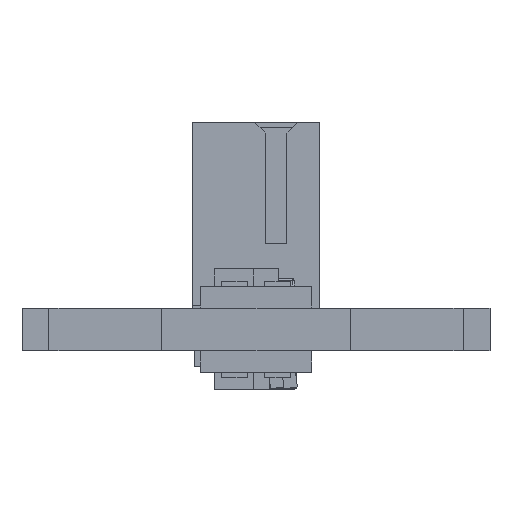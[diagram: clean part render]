
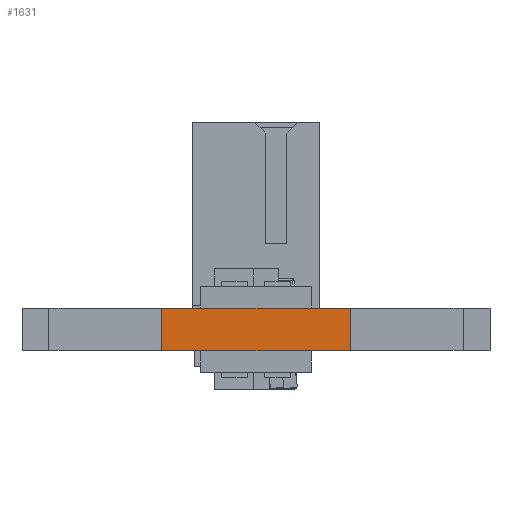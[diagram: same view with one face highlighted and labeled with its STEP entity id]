
A CAD part, front view. The second image highlights one B-rep face of the part: STEP entity #1631.
In plain terms, the highlighted planar face has unit normal (0, -1, 0).
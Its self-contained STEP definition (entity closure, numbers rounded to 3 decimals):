
#152 = EDGE_CURVE('',#153,#155,#157,.T.);
#153 = VERTEX_POINT('',#154);
#154 = CARTESIAN_POINT('',(0.,0.,0.));
#155 = VERTEX_POINT('',#156);
#156 = CARTESIAN_POINT('',(0.,0.,1.585));
#157 = SURFACE_CURVE('',#158,(#162,#174),.PCURVE_S1.);
#158 = LINE('',#159,#160);
#159 = CARTESIAN_POINT('',(0.,0.,0.));
#160 = VECTOR('',#161,1.);
#161 = DIRECTION('',(0.,0.,1.));
#162 = PCURVE('',#163,#168);
#163 = PLANE('',#164);
#164 = AXIS2_PLACEMENT_3D('',#165,#166,#167);
#165 = CARTESIAN_POINT('',(0.,0.,0.));
#166 = DIRECTION('',(-1.,0.,0.));
#167 = DIRECTION('',(0.,1.,0.));
#168 = DEFINITIONAL_REPRESENTATION('',(#169),#173);
#169 = LINE('',#170,#171);
#170 = CARTESIAN_POINT('',(0.,0.));
#171 = VECTOR('',#172,1.);
#172 = DIRECTION('',(0.,-1.));
#173 = ( GEOMETRIC_REPRESENTATION_CONTEXT(2) 
PARAMETRIC_REPRESENTATION_CONTEXT() REPRESENTATION_CONTEXT('2D SPACE',''
  ) );
#174 = PCURVE('',#175,#180);
#175 = PLANE('',#176);
#176 = AXIS2_PLACEMENT_3D('',#177,#178,#179);
#177 = CARTESIAN_POINT('',(7.,0.,0.));
#178 = DIRECTION('',(0.,-1.,0.));
#179 = DIRECTION('',(-1.,0.,0.));
#180 = DEFINITIONAL_REPRESENTATION('',(#181),#185);
#181 = LINE('',#182,#183);
#182 = CARTESIAN_POINT('',(7.,0.));
#183 = VECTOR('',#184,1.);
#184 = DIRECTION('',(0.,-1.));
#185 = ( GEOMETRIC_REPRESENTATION_CONTEXT(2) 
PARAMETRIC_REPRESENTATION_CONTEXT() REPRESENTATION_CONTEXT('2D SPACE',''
  ) );
#203 = PLANE('',#204);
#204 = AXIS2_PLACEMENT_3D('',#205,#206,#207);
#205 = CARTESIAN_POINT('',(0.,0.,1.585));
#206 = DIRECTION('',(0.,0.,-1.));
#207 = DIRECTION('',(-1.,0.,0.));
#257 = PLANE('',#258);
#258 = AXIS2_PLACEMENT_3D('',#259,#260,#261);
#259 = CARTESIAN_POINT('',(0.,0.,0.));
#260 = DIRECTION('',(0.,0.,-1.));
#261 = DIRECTION('',(-1.,0.,0.));
#1528 = PLANE('',#1529);
#1529 = AXIS2_PLACEMENT_3D('',#1530,#1531,#1532);
#1530 = CARTESIAN_POINT('',(7.,7.57,0.));
#1531 = DIRECTION('',(1.,0.,0.));
#1532 = DIRECTION('',(0.,-1.,0.));
#1566 = VERTEX_POINT('',#1567);
#1567 = CARTESIAN_POINT('',(7.,0.,1.585));
#1588 = EDGE_CURVE('',#1589,#1566,#1591,.T.);
#1589 = VERTEX_POINT('',#1590);
#1590 = CARTESIAN_POINT('',(7.,0.,0.));
#1591 = SURFACE_CURVE('',#1592,(#1596,#1603),.PCURVE_S1.);
#1592 = LINE('',#1593,#1594);
#1593 = CARTESIAN_POINT('',(7.,0.,0.));
#1594 = VECTOR('',#1595,1.);
#1595 = DIRECTION('',(0.,0.,1.));
#1596 = PCURVE('',#1528,#1597);
#1597 = DEFINITIONAL_REPRESENTATION('',(#1598),#1602);
#1598 = LINE('',#1599,#1600);
#1599 = CARTESIAN_POINT('',(7.57,0.));
#1600 = VECTOR('',#1601,1.);
#1601 = DIRECTION('',(0.,-1.));
#1602 = ( GEOMETRIC_REPRESENTATION_CONTEXT(2) 
PARAMETRIC_REPRESENTATION_CONTEXT() REPRESENTATION_CONTEXT('2D SPACE',''
  ) );
#1603 = PCURVE('',#175,#1604);
#1604 = DEFINITIONAL_REPRESENTATION('',(#1605),#1609);
#1605 = LINE('',#1606,#1607);
#1606 = CARTESIAN_POINT('',(0.,0.));
#1607 = VECTOR('',#1608,1.);
#1608 = DIRECTION('',(0.,-1.));
#1609 = ( GEOMETRIC_REPRESENTATION_CONTEXT(2) 
PARAMETRIC_REPRESENTATION_CONTEXT() REPRESENTATION_CONTEXT('2D SPACE',''
  ) );
#1631 = ADVANCED_FACE('',(#1632),#175,.T.);
#1632 = FACE_BOUND('',#1633,.T.);
#1633 = EDGE_LOOP('',(#1634,#1635,#1656,#1657));
#1634 = ORIENTED_EDGE('',*,*,#1588,.T.);
#1635 = ORIENTED_EDGE('',*,*,#1636,.T.);
#1636 = EDGE_CURVE('',#1566,#155,#1637,.T.);
#1637 = SURFACE_CURVE('',#1638,(#1642,#1649),.PCURVE_S1.);
#1638 = LINE('',#1639,#1640);
#1639 = CARTESIAN_POINT('',(7.,0.,1.585));
#1640 = VECTOR('',#1641,1.);
#1641 = DIRECTION('',(-1.,0.,0.));
#1642 = PCURVE('',#175,#1643);
#1643 = DEFINITIONAL_REPRESENTATION('',(#1644),#1648);
#1644 = LINE('',#1645,#1646);
#1645 = CARTESIAN_POINT('',(0.,-1.585));
#1646 = VECTOR('',#1647,1.);
#1647 = DIRECTION('',(1.,0.));
#1648 = ( GEOMETRIC_REPRESENTATION_CONTEXT(2) 
PARAMETRIC_REPRESENTATION_CONTEXT() REPRESENTATION_CONTEXT('2D SPACE',''
  ) );
#1649 = PCURVE('',#203,#1650);
#1650 = DEFINITIONAL_REPRESENTATION('',(#1651),#1655);
#1651 = LINE('',#1652,#1653);
#1652 = CARTESIAN_POINT('',(-7.,0.));
#1653 = VECTOR('',#1654,1.);
#1654 = DIRECTION('',(1.,0.));
#1655 = ( GEOMETRIC_REPRESENTATION_CONTEXT(2) 
PARAMETRIC_REPRESENTATION_CONTEXT() REPRESENTATION_CONTEXT('2D SPACE',''
  ) );
#1656 = ORIENTED_EDGE('',*,*,#152,.F.);
#1657 = ORIENTED_EDGE('',*,*,#1658,.F.);
#1658 = EDGE_CURVE('',#1589,#153,#1659,.T.);
#1659 = SURFACE_CURVE('',#1660,(#1664,#1671),.PCURVE_S1.);
#1660 = LINE('',#1661,#1662);
#1661 = CARTESIAN_POINT('',(7.,0.,0.));
#1662 = VECTOR('',#1663,1.);
#1663 = DIRECTION('',(-1.,0.,0.));
#1664 = PCURVE('',#175,#1665);
#1665 = DEFINITIONAL_REPRESENTATION('',(#1666),#1670);
#1666 = LINE('',#1667,#1668);
#1667 = CARTESIAN_POINT('',(0.,0.));
#1668 = VECTOR('',#1669,1.);
#1669 = DIRECTION('',(1.,0.));
#1670 = ( GEOMETRIC_REPRESENTATION_CONTEXT(2) 
PARAMETRIC_REPRESENTATION_CONTEXT() REPRESENTATION_CONTEXT('2D SPACE',''
  ) );
#1671 = PCURVE('',#257,#1672);
#1672 = DEFINITIONAL_REPRESENTATION('',(#1673),#1677);
#1673 = LINE('',#1674,#1675);
#1674 = CARTESIAN_POINT('',(-7.,0.));
#1675 = VECTOR('',#1676,1.);
#1676 = DIRECTION('',(1.,0.));
#1677 = ( GEOMETRIC_REPRESENTATION_CONTEXT(2) 
PARAMETRIC_REPRESENTATION_CONTEXT() REPRESENTATION_CONTEXT('2D SPACE',''
  ) );
